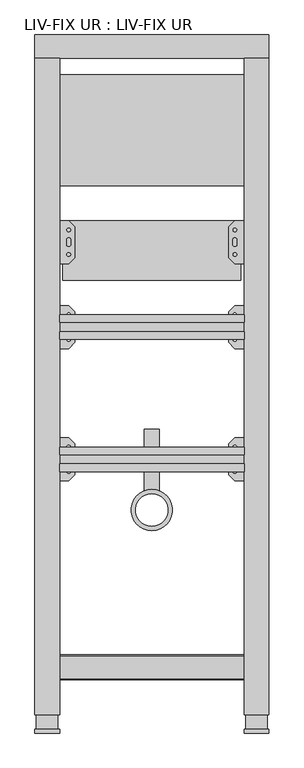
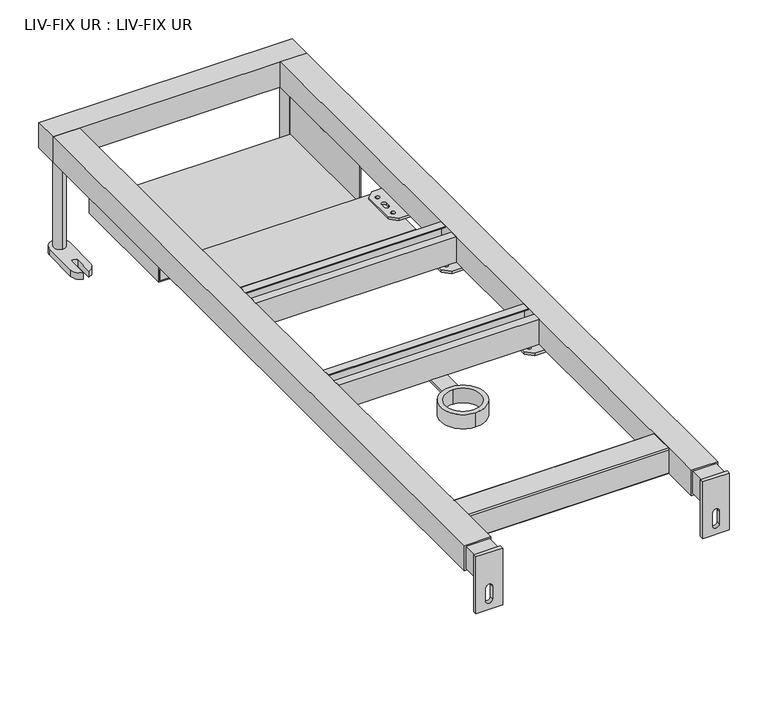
"""IFC4 building model written with IfcOpenShell, lengths in millimetres: flow terminal geometry, LIV-FIX UR : LIV-FIX UR."""

from ifc_helpers import new_model, si_unit, point, frame, frame_2d, origin, origin_with_axes, place, context, project, spatial, polyline, circle_curve, trimmed, segment, composite_curve, outline, extrude, source, transform, mapped, element, save
from ifc_brep_helpers import plane_surface, cylinder_surface, revolved_surface, advanced_brep


def liv_fix_ur_liv_fix_ur_7ab86e01(model_context):
    return source(origin(), model_context, "Body", "SolidModel", [
        extrude(outline(polyline([(150.0, 1069.9999637), (150.0, 889.9999768), (-150.0, 889.9999768), (-150.0, 1069.9999637), (150.0, 1069.9999637)])), frame((0.0, 0.0, 83.5), z_axis=(0.0, 0.0, 1.0), x_axis=(1.0, 0.0, 0.0)), (0.0, 0.0, 1.0), 18.0),
        extrude(outline(polyline([(160.0, 185.0), (160.0, 150.0), (83.5, 150.0), (83.5, 123.5), (82.0, 123.5), (82.0, 151.5), (158.5, 151.5), (158.5, 185.0), (160.0, 185.0)])), frame((0.0, 889.9999768, 0.0), z_axis=(0.0, 1.0, 0.0), x_axis=(0.0, 0.0, 1.0)), (0.0, 0.0, 1.0), 179.9999868),
        extrude(outline(polyline([(160.0, -185.0), (158.5, -185.0), (158.5, -151.5), (82.0, -151.5), (82.0, -123.5), (83.5, -123.5), (83.5, -150.0), (160.0, -150.0), (160.0, -185.0)])), frame((0.0, 889.9999768, 0.0), z_axis=(0.0, 1.0, 0.0), x_axis=(0.0, 0.0, 1.0)), (0.0, 0.0, 1.0), 179.9999868),
        extrude(outline(polyline([(640.0, 200.0), (652.4845167, 200.0), (652.4845167, 198.5), (641.5, 198.5), (641.5, 161.5), (678.5, 161.5), (678.5, 198.5), (667.5154833, 198.5), (667.5154833, 200.0), (680.0, 200.0), (680.0, 160.0), (640.0, 160.0), (640.0, 200.0)])), frame((-150.0, 0.0, 0.0), z_axis=(1.0, 0.0, 0.0), x_axis=(0.0, 1.0, 0.0)), (0.0, 0.0, 1.0), 300.0),
        extrude(outline(polyline([(134.9999986, 625.0), (124.9999986, 635.0), (124.9999986, 685.0), (134.9999986, 695.0), (184.9999986, 695.0), (184.9999986, 625.0), (134.9999986, 625.0)]), holes=[composite_curve([segment(trimmed(circle_curve(frame_2d((169.9999986, 660.0)), 4.5), [point((169.9999986, 655.5))], [point((169.9999986, 664.5))], True, "CARTESIAN"), True, "CONTINUOUS"), segment(trimmed(circle_curve(frame_2d((169.9999986, 660.0)), 4.5), [point((169.9999986, 664.5))], [point((169.9999986, 655.5))], True, "CARTESIAN"), True, "CONTINUOUS")], self_intersect=False), composite_curve([segment(trimmed(circle_curve(frame_2d((169.9999986, 680.0)), 4.5), [point((169.9999986, 675.5))], [point((169.9999986, 684.5))], True, "CARTESIAN"), True, "CONTINUOUS"), segment(trimmed(circle_curve(frame_2d((169.9999986, 680.0)), 4.5), [point((169.9999986, 684.5))], [point((169.9999986, 675.5))], True, "CARTESIAN"), True, "CONTINUOUS")], self_intersect=False), composite_curve([segment(trimmed(circle_curve(frame_2d((169.9999986, 640.0)), 4.5), [point((169.9999986, 635.5))], [point((169.9999986, 644.5))], True, "CARTESIAN"), True, "CONTINUOUS"), segment(trimmed(circle_curve(frame_2d((169.9999986, 640.0)), 4.5), [point((169.9999986, 644.5))], [point((169.9999986, 635.5))], True, "CARTESIAN"), True, "CONTINUOUS")], self_intersect=False), composite_curve([segment(trimmed(circle_curve(frame_2d((134.9999986, 680.0)), 2.9795218), [point((134.9999986, 677.0204782))], [point((134.9999986, 682.9795218))], True, "CARTESIAN"), True, "CONTINUOUS"), segment(trimmed(circle_curve(frame_2d((134.9999986, 680.0)), 2.9795218), [point((134.9999986, 682.9795218))], [point((134.9999986, 677.0204782))], True, "CARTESIAN"), True, "CONTINUOUS")], self_intersect=False), composite_curve([segment(trimmed(circle_curve(frame_2d((134.9999986, 640.0)), 2.9795218), [point((134.9999986, 637.0204782))], [point((134.9999986, 642.9795218))], True, "CARTESIAN"), True, "CONTINUOUS"), segment(trimmed(circle_curve(frame_2d((134.9999986, 640.0)), 2.9795218), [point((134.9999986, 642.9795218))], [point((134.9999986, 637.0204782))], True, "CARTESIAN"), True, "CONTINUOUS")], self_intersect=False), composite_curve([segment(trimmed(circle_curve(frame_2d((134.9999986, 663.5)), 3.5), [point((138.4999986, 663.5))], [point((131.4999986, 663.5))], True, "CARTESIAN"), True, "CONTINUOUS"), segment(polyline([(131.4999986, 663.5), (131.4999986, 656.5)]), True, "CONTINUOUS"), segment(trimmed(circle_curve(frame_2d((134.9999986, 656.5)), 3.5), [point((131.4999986, 656.5))], [point((138.4999986, 656.5))], True, "CARTESIAN"), True, "CONTINUOUS"), segment(polyline([(138.4999986, 656.5), (138.4999986, 663.5)]), True, "CONTINUOUS")], self_intersect=False)]), frame((0.0, 0.0, 156.0), z_axis=(0.0, 0.0, 1.0), x_axis=(1.0, 0.0, 0.0)), (0.0, 0.0, 1.0), 4.0),
        extrude(outline(polyline([(-134.9999987, 625.0), (-184.9999987, 625.0), (-184.9999987, 695.0), (-134.8235824, 695.0), (-124.9999987, 685.1764163), (-124.9999987, 635.0), (-134.9999987, 625.0)]), holes=[composite_curve([segment(trimmed(circle_curve(frame_2d((-169.9999987, 660.0)), 4.5), [point((-169.9999987, 655.5))], [point((-169.9999987, 664.5))], True, "CARTESIAN"), True, "CONTINUOUS"), segment(trimmed(circle_curve(frame_2d((-169.9999987, 660.0)), 4.5), [point((-169.9999987, 664.5))], [point((-169.9999987, 655.5))], True, "CARTESIAN"), True, "CONTINUOUS")], self_intersect=False), composite_curve([segment(trimmed(circle_curve(frame_2d((-169.9999987, 680.0)), 4.5), [point((-169.9999987, 675.5))], [point((-169.9999987, 684.5))], True, "CARTESIAN"), True, "CONTINUOUS"), segment(trimmed(circle_curve(frame_2d((-169.9999987, 680.0)), 4.5), [point((-169.9999987, 684.5))], [point((-169.9999987, 675.5))], True, "CARTESIAN"), True, "CONTINUOUS")], self_intersect=False), composite_curve([segment(trimmed(circle_curve(frame_2d((-169.9999987, 640.0)), 4.5), [point((-169.9999987, 635.5))], [point((-169.9999987, 644.5))], True, "CARTESIAN"), True, "CONTINUOUS"), segment(trimmed(circle_curve(frame_2d((-169.9999987, 640.0)), 4.5), [point((-169.9999987, 644.5))], [point((-169.9999987, 635.5))], True, "CARTESIAN"), True, "CONTINUOUS")], self_intersect=False), composite_curve([segment(trimmed(circle_curve(frame_2d((-134.9999987, 680.0)), 2.9795218), [point((-134.9999987, 677.0204782))], [point((-134.9999987, 682.9795218))], True, "CARTESIAN"), True, "CONTINUOUS"), segment(trimmed(circle_curve(frame_2d((-134.9999987, 680.0)), 2.9795218), [point((-134.9999987, 682.9795218))], [point((-134.9999987, 677.0204782))], True, "CARTESIAN"), True, "CONTINUOUS")], self_intersect=False), composite_curve([segment(trimmed(circle_curve(frame_2d((-134.9999987, 640.0)), 2.9795218), [point((-134.9999987, 637.0204782))], [point((-134.9999987, 642.9795218))], True, "CARTESIAN"), True, "CONTINUOUS"), segment(trimmed(circle_curve(frame_2d((-134.9999987, 640.0)), 2.9795218), [point((-134.9999987, 642.9795218))], [point((-134.9999987, 637.0204782))], True, "CARTESIAN"), True, "CONTINUOUS")], self_intersect=False), composite_curve([segment(polyline([(-138.4999987, 663.5), (-138.4999987, 656.5)]), True, "CONTINUOUS"), segment(trimmed(circle_curve(frame_2d((-134.9999987, 656.5)), 3.5), [point((-138.4999987, 656.5))], [point((-131.4999987, 656.5))], True, "CARTESIAN"), True, "CONTINUOUS"), segment(polyline([(-131.4999987, 656.5), (-131.4999987, 663.5)]), True, "CONTINUOUS"), segment(trimmed(circle_curve(frame_2d((-134.9999987, 663.5)), 3.5), [point((-131.4999987, 663.5))], [point((-138.4999987, 663.5))], True, "CARTESIAN"), True, "CONTINUOUS")], self_intersect=False)]), frame((0.0, 0.0, 156.0), z_axis=(0.0, 0.0, 1.0), x_axis=(1.0, 0.0, 0.0)), (0.0, 0.0, 1.0), 4.0),
        extrude(outline(polyline([(144.9999986, 833.0000253), (144.9999986, 735.8), (-144.9999987, 735.8), (-144.9999987, 833.0000253), (144.9999986, 833.0000253)])), frame((0.0, 0.0, 138.0), z_axis=(0.0, 0.0, 1.0), x_axis=(1.0, 0.0, 0.0)), (0.0, 0.0, 1.0), 18.0),
        advanced_brep(
        [(12.4999978, 395.0000028, 157.0000004), (12.4999978, 395.0000028, 160.0), (8.4120037, 395.0000028, 160.0), (8.4120037, 395.0000028, 157.0000004), (-12.5000024, 395.0000028, 160.0), (-12.5000024, 395.0000028, 157.0000004), (-8.4120037, 395.0000028, 157.0000004), (-8.4120037, 395.0000028, 160.0), (-12.5000024, 494.0322143, 157.0000004), (-12.5000024, 494.0322143, 160.0), (12.4999978, 494.0322143, 160.0), (12.4999978, 494.0322143, 157.0000004), (0.0, 396.0750016, 157.0000004), (0.0, 396.0750016, 160.0), (0.0, 396.0750016, 162.5), (0.0, 329.1749977, 162.5), (0.0, 388.8759865, 162.5), (0.0, 336.3740129, 162.5), (0.0, 396.0750016, 139.9999979), (0.0, 329.1749977, 139.9999979), (0.0, 388.8759865, 139.9999979), (0.0, 336.3740129, 139.9999979)],
        [
            (0, 1),
            (1, 2),
            (2, 3),
            (3, 0),
            (4, 5),
            (5, 6),
            (6, 7),
            (7, 4),
            (8, 9),
            (9, 10),
            (10, 11),
            (11, 8),
            (11, 0),
            (3, 12, circle_curve(frame((0.0, 362.6249997, 157.0000004), z_axis=(0.0, 0.0, 1.0), x_axis=(0.0, -1.0, 0.0)), 33.4500019)),
            (12, 6, circle_curve(frame((0.0, 362.6249997, 157.0000004), z_axis=(0.0, 0.0, 1.0), x_axis=(0.0, -1.0, 0.0)), 33.4500019)),
            (5, 8),
            (10, 1),
            (9, 4),
            (7, 13, circle_curve(frame((0.0, 362.6249997, 160.0), z_axis=(0.0, 0.0, -1.0), x_axis=(0.0, -1.0, 0.0)), 33.4500019)),
            (13, 2, circle_curve(frame((0.0, 362.6249997, 160.0), z_axis=(0.0, 0.0, -1.0), x_axis=(0.0, -1.0, 0.0)), 33.4500019)),
            (14, 15, circle_curve(frame((0.0, 362.6249997, 162.5), z_axis=(0.0, 0.0, 1.0), x_axis=(0.0, -1.0, 0.0)), 33.4500019)),
            (15, 14, circle_curve(frame((0.0, 362.6249997, 162.5), z_axis=(0.0, 0.0, 1.0), x_axis=(0.0, -1.0, 0.0)), 33.4500019)),
            (16, 17, circle_curve(frame((0.0, 362.6249997, 162.5), z_axis=(0.0, 0.0, -1.0), x_axis=(0.0, -1.0, 0.0)), 26.2509868)),
            (17, 16, circle_curve(frame((0.0, 362.6249997, 162.5), z_axis=(0.0, 0.0, -1.0), x_axis=(0.0, -1.0, 0.0)), 26.2509868)),
            (18, 19, circle_curve(frame((0.0, 362.6249997, 139.9999979), z_axis=(0.0, 0.0, -1.0), x_axis=(0.0, -1.0, 0.0)), 33.4500019)),
            (19, 18, circle_curve(frame((0.0, 362.6249997, 139.9999979), z_axis=(0.0, 0.0, -1.0), x_axis=(0.0, -1.0, 0.0)), 33.4500019)),
            (20, 21, circle_curve(frame((0.0, 362.6249997, 139.9999979), z_axis=(0.0, 0.0, 1.0), x_axis=(0.0, -1.0, 0.0)), 26.2509868)),
            (21, 20, circle_curve(frame((0.0, 362.6249997, 139.9999979), z_axis=(0.0, 0.0, 1.0), x_axis=(0.0, -1.0, 0.0)), 26.2509868)),
            (15, 19),
            (18, 12),
            (13, 14),
            (17, 21),
            (20, 16),
        ],
        [
            plane_surface(frame((-12.5000024, 395.0000028, 157.0000004), z_axis=(0.0, -1.0, 0.0), x_axis=(0.0, 0.0, -1.0))),
            plane_surface(frame((-12.5000024, 494.0322143, 157.0000004), z_axis=(0.0, 1.0, 0.0), x_axis=(0.0, 0.0, 1.0))),
            plane_surface(frame((12.4999978, 494.0322143, 157.0000004), z_axis=(0.0, 0.0, -1.0), x_axis=(0.0, -1.0, 0.0))),
            plane_surface(frame((12.4999978, 494.0322143, 160.0), z_axis=(1.0, 0.0, 0.0), x_axis=(0.0, -1.0, 0.0))),
            plane_surface(frame((-12.5000024, 494.0322143, 160.0), z_axis=(0.0, 0.0, 1.0), x_axis=(0.0, -1.0, 0.0))),
            plane_surface(frame((-12.5000024, 494.0322143, 157.0000004), z_axis=(-1.0, 0.0, 0.0), x_axis=(0.0, -1.0, 0.0))),
            plane_surface(frame((0.0, 329.1749977, 162.5), z_axis=(0.0, 0.0, 1.0), x_axis=(1.0, 0.0, 0.0))),
            plane_surface(frame((0.0, 329.1749977, 139.9999979), z_axis=(0.0, 0.0, -1.0), x_axis=(-1.0, 0.0, 0.0))),
            cylinder_surface(frame((0.0, 362.6249997, 162.5), z_axis=(0.0, 0.0, -1.0), x_axis=(0.0, -1.0, 0.0)), 33.4500019),
            revolved_surface(polyline([(0.0, 336.37401289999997, 162.5), (0.0, 336.37401289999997, 139.9999979)]), (0.0, 362.6249997, 152.5), (0.0, 0.0, 1.0)),
        ],
        [
            (0, [[1, 2, 3, 4]]),
            (0, [[5, 6, 7, 8]]),
            (1, [[9, 10, 11, 12]]),
            (2, [[-12, 13, -4, 14, 15, -6, 16]]),
            (3, [[-1, -13, -11, 17]]),
            (4, [[-10, 18, -8, 19, 20, -2, -17]]),
            (5, [[-5, -18, -9, -16]]),
            (6, [[21, 22], [23, 24]]),
            (7, [[25, 26], [27, 28]]),
            (8, [[-22, 29, -25, 30, -14, -3, -20, 31]]),
            (8, [[-21, -31, -19, -7, -15, -30, -26, -29]]),
            (9, [[-24, 32, -27, 33]]),
            (9, [[-23, -33, -28, -32]]),
        ],
    ),
        extrude(outline(polyline([(425.0000028, 200.0), (437.4845194, 200.0), (437.4845194, 198.5), (426.5000028, 198.5), (426.5000028, 161.5), (463.5000028, 161.5), (463.5000028, 198.5), (452.5154861, 198.5), (452.5154861, 200.0), (465.0000028, 200.0), (465.0000028, 160.0), (425.0000028, 160.0), (425.0000028, 200.0)])), frame((-150.0, 0.0, 0.0), z_axis=(1.0, 0.0, 0.0), x_axis=(0.0, 1.0, 0.0)), (0.0, 0.0, 1.0), 300.0),
        extrude(outline(polyline([(134.9999986, 763.0000253), (124.9999986, 773.0000253), (124.9999986, 823.0000253), (134.9999986, 833.0000253), (184.9999986, 833.0000253), (184.9999986, 763.0000253), (134.9999986, 763.0000253)]), holes=[composite_curve([segment(trimmed(circle_curve(frame_2d((169.9999986, 798.0000253)), 4.5), [point((169.9999986, 793.5000253))], [point((169.9999986, 802.5000253))], True, "CARTESIAN"), True, "CONTINUOUS"), segment(trimmed(circle_curve(frame_2d((169.9999986, 798.0000253)), 4.5), [point((169.9999986, 802.5000253))], [point((169.9999986, 793.5000253))], True, "CARTESIAN"), True, "CONTINUOUS")], self_intersect=False), composite_curve([segment(trimmed(circle_curve(frame_2d((169.9999986, 818.0000253)), 4.5), [point((169.9999986, 813.5000253))], [point((169.9999986, 822.5000253))], True, "CARTESIAN"), True, "CONTINUOUS"), segment(trimmed(circle_curve(frame_2d((169.9999986, 818.0000253)), 4.5), [point((169.9999986, 822.5000253))], [point((169.9999986, 813.5000253))], True, "CARTESIAN"), True, "CONTINUOUS")], self_intersect=False), composite_curve([segment(trimmed(circle_curve(frame_2d((169.9999986, 778.0000253)), 4.5), [point((169.9999986, 773.5000253))], [point((169.9999986, 782.5000253))], True, "CARTESIAN"), True, "CONTINUOUS"), segment(trimmed(circle_curve(frame_2d((169.9999986, 778.0000253)), 4.5), [point((169.9999986, 782.5000253))], [point((169.9999986, 773.5000253))], True, "CARTESIAN"), True, "CONTINUOUS")], self_intersect=False), composite_curve([segment(trimmed(circle_curve(frame_2d((134.9999986, 818.0000253)), 2.9795218), [point((134.9999986, 815.0205035))], [point((134.9999986, 820.979547))], True, "CARTESIAN"), True, "CONTINUOUS"), segment(trimmed(circle_curve(frame_2d((134.9999986, 818.0000253)), 2.9795218), [point((134.9999986, 820.979547))], [point((134.9999986, 815.0205035))], True, "CARTESIAN"), True, "CONTINUOUS")], self_intersect=False), composite_curve([segment(trimmed(circle_curve(frame_2d((134.9999986, 778.0000253)), 2.9795218), [point((134.9999986, 775.0205035))], [point((134.9999986, 780.979547))], True, "CARTESIAN"), True, "CONTINUOUS"), segment(trimmed(circle_curve(frame_2d((134.9999986, 778.0000253)), 2.9795218), [point((134.9999986, 780.979547))], [point((134.9999986, 775.0205035))], True, "CARTESIAN"), True, "CONTINUOUS")], self_intersect=False), composite_curve([segment(trimmed(circle_curve(frame_2d((134.9999986, 801.5000253)), 3.5), [point((138.4999986, 801.5000253))], [point((131.4999986, 801.5000253))], True, "CARTESIAN"), True, "CONTINUOUS"), segment(polyline([(131.4999986, 801.5000253), (131.4999986, 794.5000253)]), True, "CONTINUOUS"), segment(trimmed(circle_curve(frame_2d((134.9999986, 794.5000253)), 3.5), [point((131.4999986, 794.5000253))], [point((138.4999986, 794.5000253))], True, "CARTESIAN"), True, "CONTINUOUS"), segment(polyline([(138.4999986, 794.5000253), (138.4999986, 801.5000253)]), True, "CONTINUOUS")], self_intersect=False)]), frame((0.0, 0.0, 156.0), z_axis=(0.0, 0.0, 1.0), x_axis=(1.0, 0.0, 0.0)), (0.0, 0.0, 1.0), 4.0),
        extrude(outline(polyline([(-134.9999987, 763.0000253), (-184.9999987, 763.0000253), (-184.9999987, 833.0000253), (-134.9999987, 833.0000253), (-124.9999987, 823.0000253), (-124.9999987, 773.0000253), (-134.9999987, 763.0000253)]), holes=[composite_curve([segment(trimmed(circle_curve(frame_2d((-169.9999987, 798.0000253)), 4.5), [point((-169.9999987, 793.5000253))], [point((-169.9999987, 802.5000253))], True, "CARTESIAN"), True, "CONTINUOUS"), segment(trimmed(circle_curve(frame_2d((-169.9999987, 798.0000253)), 4.5), [point((-169.9999987, 802.5000253))], [point((-169.9999987, 793.5000253))], True, "CARTESIAN"), True, "CONTINUOUS")], self_intersect=False), composite_curve([segment(trimmed(circle_curve(frame_2d((-169.9999987, 818.0000253)), 4.5), [point((-169.9999987, 813.5000253))], [point((-169.9999987, 822.5000253))], True, "CARTESIAN"), True, "CONTINUOUS"), segment(trimmed(circle_curve(frame_2d((-169.9999987, 818.0000253)), 4.5), [point((-169.9999987, 822.5000253))], [point((-169.9999987, 813.5000253))], True, "CARTESIAN"), True, "CONTINUOUS")], self_intersect=False), composite_curve([segment(trimmed(circle_curve(frame_2d((-169.9999987, 778.0000253)), 4.5), [point((-169.9999987, 773.5000253))], [point((-169.9999987, 782.5000253))], True, "CARTESIAN"), True, "CONTINUOUS"), segment(trimmed(circle_curve(frame_2d((-169.9999987, 778.0000253)), 4.5), [point((-169.9999987, 782.5000253))], [point((-169.9999987, 773.5000253))], True, "CARTESIAN"), True, "CONTINUOUS")], self_intersect=False), composite_curve([segment(trimmed(circle_curve(frame_2d((-134.9999987, 818.0000253)), 2.9795218), [point((-134.9999987, 815.0205035))], [point((-134.9999987, 820.979547))], True, "CARTESIAN"), True, "CONTINUOUS"), segment(trimmed(circle_curve(frame_2d((-134.9999987, 818.0000253)), 2.9795218), [point((-134.9999987, 820.979547))], [point((-134.9999987, 815.0205035))], True, "CARTESIAN"), True, "CONTINUOUS")], self_intersect=False), composite_curve([segment(trimmed(circle_curve(frame_2d((-134.9999987, 778.0000253)), 2.9795218), [point((-134.9999987, 775.0205035))], [point((-134.9999987, 780.979547))], True, "CARTESIAN"), True, "CONTINUOUS"), segment(trimmed(circle_curve(frame_2d((-134.9999987, 778.0000253)), 2.9795218), [point((-134.9999987, 780.979547))], [point((-134.9999987, 775.0205035))], True, "CARTESIAN"), True, "CONTINUOUS")], self_intersect=False), composite_curve([segment(polyline([(-138.4999987, 801.5000253), (-138.4999987, 794.5000253)]), True, "CONTINUOUS"), segment(trimmed(circle_curve(frame_2d((-134.9999987, 794.5000253)), 3.5), [point((-138.4999987, 794.5000253))], [point((-131.4999987, 794.5000253))], True, "CARTESIAN"), True, "CONTINUOUS"), segment(polyline([(-131.4999987, 794.5000253), (-131.4999987, 801.5000253)]), True, "CONTINUOUS"), segment(trimmed(circle_curve(frame_2d((-134.9999987, 801.5000253)), 3.5), [point((-131.4999987, 801.5000253))], [point((-138.4999987, 801.5000253))], True, "CARTESIAN"), True, "CONTINUOUS")], self_intersect=False)]), frame((0.0, 0.0, 156.0), z_axis=(0.0, 0.0, 1.0), x_axis=(1.0, 0.0, 0.0)), (0.0, 0.0, 1.0), 4.0),
        extrude(outline(polyline([(-135.0, 410.0000028), (-185.0, 410.0000028), (-185.0, 480.0000028), (-135.0, 480.0000028), (-125.0, 470.0000028), (-125.0, 420.0000028), (-135.0, 410.0000028)]), holes=[composite_curve([segment(trimmed(circle_curve(frame_2d((-170.0, 445.0000028)), 4.5), [point((-170.0, 440.5000028))], [point((-170.0, 449.5000028))], True, "CARTESIAN"), True, "CONTINUOUS"), segment(trimmed(circle_curve(frame_2d((-170.0, 445.0000028)), 4.5), [point((-170.0, 449.5000028))], [point((-170.0, 440.5000028))], True, "CARTESIAN"), True, "CONTINUOUS")], self_intersect=False), composite_curve([segment(trimmed(circle_curve(frame_2d((-170.0, 465.0000028)), 4.5), [point((-170.0, 460.5000028))], [point((-170.0, 469.5000028))], True, "CARTESIAN"), True, "CONTINUOUS"), segment(trimmed(circle_curve(frame_2d((-170.0, 465.0000028)), 4.5), [point((-170.0, 469.5000028))], [point((-170.0, 460.5000028))], True, "CARTESIAN"), True, "CONTINUOUS")], self_intersect=False), composite_curve([segment(trimmed(circle_curve(frame_2d((-170.0, 425.0000028)), 4.5), [point((-170.0, 420.5000028))], [point((-170.0, 429.5000028))], True, "CARTESIAN"), True, "CONTINUOUS"), segment(trimmed(circle_curve(frame_2d((-170.0, 425.0000028)), 4.5), [point((-170.0, 429.5000028))], [point((-170.0, 420.5000028))], True, "CARTESIAN"), True, "CONTINUOUS")], self_intersect=False), composite_curve([segment(trimmed(circle_curve(frame_2d((-135.0, 465.0000028)), 2.9795218), [point((-135.0, 462.020481))], [point((-135.0, 467.9795245))], True, "CARTESIAN"), True, "CONTINUOUS"), segment(trimmed(circle_curve(frame_2d((-135.0, 465.0000028)), 2.9795218), [point((-135.0, 467.9795245))], [point((-135.0, 462.020481))], True, "CARTESIAN"), True, "CONTINUOUS")], self_intersect=False), composite_curve([segment(trimmed(circle_curve(frame_2d((-135.0, 425.0000028)), 2.9795218), [point((-135.0, 422.020481))], [point((-135.0, 427.9795245))], True, "CARTESIAN"), True, "CONTINUOUS"), segment(trimmed(circle_curve(frame_2d((-135.0, 425.0000028)), 2.9795218), [point((-135.0, 427.9795245))], [point((-135.0, 422.020481))], True, "CARTESIAN"), True, "CONTINUOUS")], self_intersect=False), composite_curve([segment(polyline([(-138.5, 448.5000028), (-138.5, 441.5000028)]), True, "CONTINUOUS"), segment(trimmed(circle_curve(frame_2d((-135.0, 441.5000028)), 3.5), [point((-138.5, 441.5000028))], [point((-131.5, 441.5000028))], True, "CARTESIAN"), True, "CONTINUOUS"), segment(polyline([(-131.5, 441.5000028), (-131.5, 448.5000028)]), True, "CONTINUOUS"), segment(trimmed(circle_curve(frame_2d((-135.0, 448.5000028)), 3.5), [point((-131.5, 448.5000028))], [point((-138.5, 448.5000028))], True, "CARTESIAN"), True, "CONTINUOUS")], self_intersect=False)]), frame((0.0, 0.0, 156.0), z_axis=(0.0, 0.0, 1.0), x_axis=(1.0, 0.0, 0.0)), (0.0, 0.0, 1.0), 4.0),
        extrude(outline(polyline([(135.0, 410.0000028), (125.0, 420.0000028), (125.0, 470.0000028), (135.0, 480.0000028), (185.0, 480.0000028), (185.0, 410.0000028), (135.0, 410.0000028)]), holes=[composite_curve([segment(trimmed(circle_curve(frame_2d((170.0, 445.0000028)), 4.5), [point((170.0, 440.5000028))], [point((170.0, 449.5000028))], True, "CARTESIAN"), True, "CONTINUOUS"), segment(trimmed(circle_curve(frame_2d((170.0, 445.0000028)), 4.5), [point((170.0, 449.5000028))], [point((170.0, 440.5000028))], True, "CARTESIAN"), True, "CONTINUOUS")], self_intersect=False), composite_curve([segment(trimmed(circle_curve(frame_2d((170.0, 465.0000028)), 4.5), [point((170.0, 460.5000028))], [point((170.0, 469.5000028))], True, "CARTESIAN"), True, "CONTINUOUS"), segment(trimmed(circle_curve(frame_2d((170.0, 465.0000028)), 4.5), [point((170.0, 469.5000028))], [point((170.0, 460.5000028))], True, "CARTESIAN"), True, "CONTINUOUS")], self_intersect=False), composite_curve([segment(trimmed(circle_curve(frame_2d((170.0, 425.0000028)), 4.5), [point((170.0, 420.5000028))], [point((170.0, 429.5000028))], True, "CARTESIAN"), True, "CONTINUOUS"), segment(trimmed(circle_curve(frame_2d((170.0, 425.0000028)), 4.5), [point((170.0, 429.5000028))], [point((170.0, 420.5000028))], True, "CARTESIAN"), True, "CONTINUOUS")], self_intersect=False), composite_curve([segment(trimmed(circle_curve(frame_2d((135.0, 465.0000028)), 2.9795218), [point((135.0, 462.020481))], [point((135.0, 467.9795245))], True, "CARTESIAN"), True, "CONTINUOUS"), segment(trimmed(circle_curve(frame_2d((135.0, 465.0000028)), 2.9795218), [point((135.0, 467.9795245))], [point((135.0, 462.020481))], True, "CARTESIAN"), True, "CONTINUOUS")], self_intersect=False), composite_curve([segment(trimmed(circle_curve(frame_2d((135.0, 425.0000028)), 2.9795218), [point((135.0, 422.020481))], [point((135.0, 427.9795245))], True, "CARTESIAN"), True, "CONTINUOUS"), segment(trimmed(circle_curve(frame_2d((135.0, 425.0000028)), 2.9795218), [point((135.0, 427.9795245))], [point((135.0, 422.020481))], True, "CARTESIAN"), True, "CONTINUOUS")], self_intersect=False), composite_curve([segment(trimmed(circle_curve(frame_2d((135.0, 448.5000028)), 3.5), [point((138.5, 448.5000028))], [point((131.5, 448.5000028))], True, "CARTESIAN"), True, "CONTINUOUS"), segment(polyline([(131.5, 448.5000028), (131.5, 441.5000028)]), True, "CONTINUOUS"), segment(trimmed(circle_curve(frame_2d((135.0, 441.5000028)), 3.5), [point((131.5, 441.5000028))], [point((138.5, 441.5000028))], True, "CARTESIAN"), True, "CONTINUOUS"), segment(polyline([(138.5, 441.5000028), (138.5, 448.5000028)]), True, "CONTINUOUS")], self_intersect=False)]), frame((0.0, 0.0, 156.0), z_axis=(0.0, 0.0, 1.0), x_axis=(1.0, 0.0, 0.0)), (0.0, 0.0, 1.0), 4.0),
        extrude(outline(composite_curve([segment(trimmed(circle_curve(frame_2d((-170.0, 1114.9546011)), 8.75), [point((-170.0, 1106.2046011))], [point((-170.0, 1123.7046011))], False, "CARTESIAN"), True, "CONTINUOUS"), segment(trimmed(circle_curve(frame_2d((-170.0, 1114.9546011)), 8.75), [point((-170.0, 1123.7046011))], [point((-170.0, 1106.2046011))], False, "CARTESIAN"), True, "CONTINUOUS")], self_intersect=False)), frame((0.0, 0.0, 10.0), z_axis=(0.0, 0.0, 1.0), x_axis=(1.0, 0.0, 0.0)), (0.0, 0.0, 1.0), 150.0),
        extrude(outline(composite_curve([segment(trimmed(circle_curve(frame_2d((170.0, 1114.9993352)), 8.75), [point((170.0, 1106.2493352))], [point((170.0, 1123.7493352))], False, "CARTESIAN"), True, "CONTINUOUS"), segment(trimmed(circle_curve(frame_2d((170.0, 1114.9993352)), 8.75), [point((170.0, 1123.7493352))], [point((170.0, 1106.2493352))], False, "CARTESIAN"), True, "CONTINUOUS")], self_intersect=False)), frame((0.0, 0.0, 10.0), z_axis=(0.0, 0.0, 1.0), x_axis=(1.0, 0.0, 0.0)), (0.0, 0.0, 1.0), 150.0),
        extrude(outline(composite_curve([segment(trimmed(circle_curve(frame_2d((-170.0, 1114.9546011)), 15.0), [point((-185.0, 1114.9546011))], [point((-155.0, 1114.9546011))], False, "CARTESIAN"), True, "CONTINUOUS"), segment(polyline([(-155.0, 1114.9546011), (-155.0, 1060.9531532)]), True, "CONTINUOUS"), segment(trimmed(circle_curve(frame_2d((-170.0, 1060.9531532)), 15.0), [point((-155.0, 1060.9531532))], [point((-166.0, 1046.4963209))], False, "CARTESIAN"), True, "CONTINUOUS"), segment(polyline([(-166.0, 1046.4963209), (-166.0, 1075.4099855)]), True, "CONTINUOUS"), segment(trimmed(circle_curve(frame_2d((-170.0, 1075.4099855)), 4.0), [point((-166.0, 1075.4099855))], [point((-174.0, 1075.4099855))], True, "CARTESIAN"), True, "CONTINUOUS"), segment(polyline([(-174.0, 1075.4099855), (-174.0, 1046.4963209)]), True, "CONTINUOUS"), segment(trimmed(circle_curve(frame_2d((-170.0, 1060.9531532)), 15.0), [point((-174.0, 1046.4963209))], [point((-185.0, 1060.9531532))], False, "CARTESIAN"), True, "CONTINUOUS"), segment(polyline([(-185.0, 1060.9531532), (-185.0, 1114.9546011)]), True, "CONTINUOUS")], self_intersect=False)), origin_with_axes(), (0.0, 0.0, 1.0), 10.0),
        extrude(outline(composite_curve([segment(polyline([(185.0, 1114.9993352), (185.0, 1060.9978873)]), True, "CONTINUOUS"), segment(trimmed(circle_curve(frame_2d((170.0, 1060.9978873)), 15.0), [point((185.0, 1060.9978873))], [point((174.0, 1046.541055))], False, "CARTESIAN"), True, "CONTINUOUS"), segment(polyline([(174.0, 1046.541055), (174.0, 1075.4547196)]), True, "CONTINUOUS"), segment(trimmed(circle_curve(frame_2d((170.0, 1075.4547196)), 4.0), [point((174.0, 1075.4547196))], [point((166.0, 1075.4547196))], True, "CARTESIAN"), True, "CONTINUOUS"), segment(polyline([(166.0, 1075.4547196), (166.0, 1046.541055)]), True, "CONTINUOUS"), segment(trimmed(circle_curve(frame_2d((170.0, 1060.9978873)), 15.0), [point((166.0, 1046.541055))], [point((155.0, 1060.9978873))], False, "CARTESIAN"), True, "CONTINUOUS"), segment(polyline([(155.0, 1060.9978873), (155.0, 1114.9993352)]), True, "CONTINUOUS"), segment(trimmed(circle_curve(frame_2d((170.0, 1114.9993352)), 15.0), [point((155.0, 1114.9993352))], [point((185.0, 1114.9993352))], False, "CARTESIAN"), True, "CONTINUOUS")], self_intersect=False)), origin_with_axes(), (0.0, 0.0, 1.0), 10.0),
        extrude(outline(polyline([(-187.5, 549.0), (-152.5, 549.0), (-152.5, 6.0), (-187.5, 6.0), (-187.5, 549.0)])), frame((0.0, 0.0, 162.5), z_axis=(0.0, 0.0, 1.0), x_axis=(1.0, 0.0, 0.0)), (0.0, 0.0, 1.0), 35.0),
        extrude(outline(polyline([(152.4841074, 549.0), (187.4841074, 549.0), (187.4841074, 6.0), (152.4841074, 6.0), (152.4841074, 549.0)])), frame((0.0, 0.0, 162.5), z_axis=(0.0, 0.0, 1.0), x_axis=(1.0, 0.0, 0.0)), (0.0, 0.0, 1.0), 35.0),
        extrude(outline(polyline([(200.0, 190.0), (200.0, 150.0), (110.0, 150.0), (110.0, 190.0), (200.0, 190.0)]), holes=[composite_curve([segment(trimmed(circle_curve(frame_2d((145.0, 170.0)), 5.0), [point((145.0, 165.0))], [point((145.0, 175.0))], True, "CARTESIAN"), True, "CONTINUOUS"), segment(polyline([(145.0, 175.0), (125.0, 175.0)]), True, "CONTINUOUS"), segment(trimmed(circle_curve(frame_2d((125.0, 170.0)), 5.0), [point((125.0, 175.0))], [point((125.0, 165.0))], True, "CARTESIAN"), True, "CONTINUOUS"), segment(polyline([(125.0, 165.0), (145.0, 165.0)]), True, "CONTINUOUS")], self_intersect=False)]), frame((0.0, 0.0, 0.0), z_axis=(0.0, 1.0, 0.0), x_axis=(0.0, 0.0, 1.0)), (0.0, 0.0, 1.0), 6.0),
        extrude(outline(polyline([(200.0, -150.0), (200.0, -190.0), (110.0, -190.0), (110.0, -150.0), (200.0, -150.0)]), holes=[composite_curve([segment(trimmed(circle_curve(frame_2d((145.0, -170.0)), 5.0), [point((145.0, -175.0))], [point((145.0, -165.0))], True, "CARTESIAN"), True, "CONTINUOUS"), segment(polyline([(145.0, -165.0), (125.0, -165.0)]), True, "CONTINUOUS"), segment(trimmed(circle_curve(frame_2d((125.0, -170.0)), 5.0), [point((125.0, -165.0))], [point((125.0, -175.0))], True, "CARTESIAN"), True, "CONTINUOUS"), segment(polyline([(125.0, -175.0), (145.0, -175.0)]), True, "CONTINUOUS")], self_intersect=False)]), frame((0.0, 0.0, 0.0), z_axis=(0.0, 1.0, 0.0), x_axis=(0.0, 0.0, 1.0)), (0.0, 0.0, 1.0), 6.0),
        extrude(outline(polyline([(-150.0, 29.9999993), (-190.0, 29.9999993), (-190.0, 1097.1624451), (-150.0, 1097.1624451), (-150.0, 29.9999993)])), frame((0.0, 0.0, 160.0), z_axis=(0.0, 0.0, 1.0), x_axis=(1.0, 0.0, 0.0)), (0.0, 0.0, 1.0), 40.0),
        extrude(outline(polyline([(190.0, 29.9999993), (150.0, 29.9999993), (150.0, 1097.1624451), (190.0, 1097.1624451), (190.0, 29.9999993)])), frame((0.0, 0.0, 160.0), z_axis=(0.0, 0.0, 1.0), x_axis=(1.0, 0.0, 0.0)), (0.0, 0.0, 1.0), 40.0),
        extrude(outline(polyline([(190.0, 1134.9749849), (190.0, 1097.1624451), (-190.0, 1097.1624451), (-190.0, 1134.9749849), (190.0, 1134.9749849)])), frame((0.0, 0.0, 160.0), z_axis=(0.0, 0.0, 1.0), x_axis=(1.0, 0.0, 0.0)), (0.0, 0.0, 1.0), 40.0),
        extrude(outline(composite_curve([segment(polyline([(126.9499955, 198.0126212), (126.9499955, 161.5550003)]), True, "CONTINUOUS"), segment(trimmed(circle_curve(frame_2d((124.5447367, 161.8094508)), 2.4186804), [point((126.9499955, 161.5550003))], [point((126.1496986, 160.0))], False, "CARTESIAN"), True, "CONTINUOUS"), segment(polyline([(126.1496986, 160.0), (87.8536369, 160.0)]), True, "CONTINUOUS"), segment(trimmed(circle_curve(frame_2d((89.4585988, 161.8094508)), 2.4186804), [point((87.8536369, 160.0))], [point((87.05334, 161.5550003))], False, "CARTESIAN"), True, "CONTINUOUS"), segment(polyline([(87.05334, 161.5550003), (87.05334, 198.0126212)]), True, "CONTINUOUS"), segment(trimmed(circle_curve(frame_2d((89.4585988, 197.7581707)), 2.4186804), [point((87.05334, 198.0126212))], [point((88.5507352, 200.0))], False, "CARTESIAN"), True, "CONTINUOUS"), segment(polyline([(88.5507352, 200.0), (125.4526003, 200.0)]), True, "CONTINUOUS"), segment(trimmed(circle_curve(frame_2d((124.5447367, 197.7581707)), 2.4186804), [point((125.4526003, 200.0))], [point((126.9499955, 198.0126212))], False, "CARTESIAN"), True, "CONTINUOUS")], self_intersect=False)), frame((-150.0, 0.0, 0.0), z_axis=(1.0, 0.0, 0.0), x_axis=(0.0, 1.0, 0.0)), (0.0, 0.0, 1.0), 300.0),
    ])


if __name__ == "__main__":
    model = new_model("IFC4")
    model_context = context("Model", 3, world=origin())
    ifc_project = project(units=[si_unit("LENGTHUNIT", "METRE", prefix="MILLI")], contexts=[model_context])
    site = spatial("IfcSite", under=ifc_project)
    building = spatial("IfcBuilding", under=site)
    placement = place(None, origin())
    liv_fix_ur_liv_fix_ur_shape = liv_fix_ur_liv_fix_ur_7ab86e01(model_context)
    element("IfcFlowTerminal", 1, ObjectType="LIV-FIX UR : LIV-FIX UR", at=placement, inside=building, context=model_context, shape_type="MappedRepresentation", body=[
        mapped(liv_fix_ur_liv_fix_ur_shape, transform((0.0, 0.0, 0.0), x_axis=(1.0, 0.0, 0.0), y_axis=(0.0, 1.0, 0.0), z_axis=(0.0, 0.0, 1.0))),
    ])
    save(model, "model.ifc")
